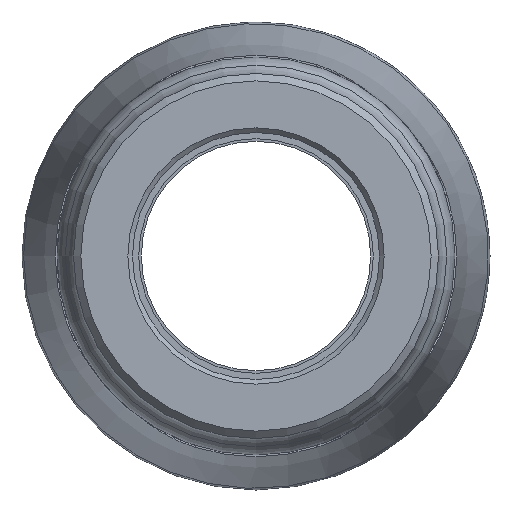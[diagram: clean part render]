
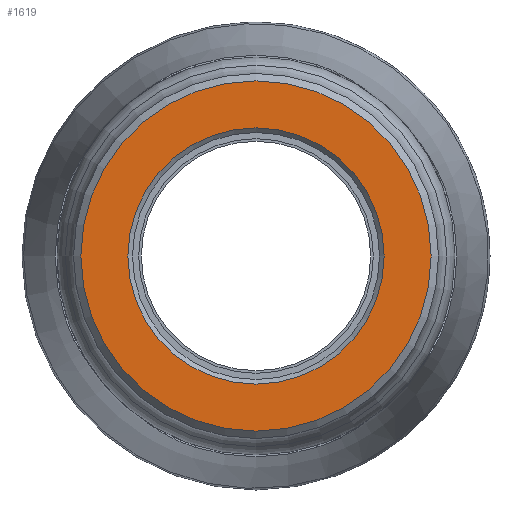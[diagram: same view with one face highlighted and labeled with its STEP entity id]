
A CAD part, left-side view. The second image highlights one B-rep face of the part: STEP entity #1619.
In plain terms, the highlighted planar face has unit normal (-1, 0, 0).
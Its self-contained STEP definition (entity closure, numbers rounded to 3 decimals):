
#29=FACE_BOUND('',#401,.T.);
#212=PLANE('',#1776);
#290=FACE_OUTER_BOUND('',#400,.T.);
#400=EDGE_LOOP('',(#1219));
#401=EDGE_LOOP('',(#1220));
#542=CIRCLE('',#1775,23.273);
#543=CIRCLE('',#1777,31.805);
#728=VERTEX_POINT('',#2878);
#729=VERTEX_POINT('',#2881);
#910=EDGE_CURVE('',#728,#728,#542,.T.);
#911=EDGE_CURVE('',#729,#729,#543,.T.);
#1219=ORIENTED_EDGE('',*,*,#911,.F.);
#1220=ORIENTED_EDGE('',*,*,#910,.F.);
#1619=ADVANCED_FACE('',(#290,#29),#212,.T.);
#1775=AXIS2_PLACEMENT_3D('',#2879,#2067,#2068);
#1776=AXIS2_PLACEMENT_3D('',#2880,#2069,#2070);
#1777=AXIS2_PLACEMENT_3D('',#2882,#2071,#2072);
#2067=DIRECTION('center_axis',(-1.,0.,0.));
#2068=DIRECTION('ref_axis',(0.,-1.,0.));
#2069=DIRECTION('center_axis',(-1.,0.,0.));
#2070=DIRECTION('ref_axis',(0.,0.,1.));
#2071=DIRECTION('center_axis',(1.,0.,0.));
#2072=DIRECTION('ref_axis',(0.,-1.,0.));
#2878=CARTESIAN_POINT('',(0.,23.273,0.));
#2879=CARTESIAN_POINT('Origin',(0.,0.,0.));
#2880=CARTESIAN_POINT('Origin',(0.,33.15,0.));
#2881=CARTESIAN_POINT('',(0.,31.805,0.));
#2882=CARTESIAN_POINT('Origin',(0.,0.,0.));
